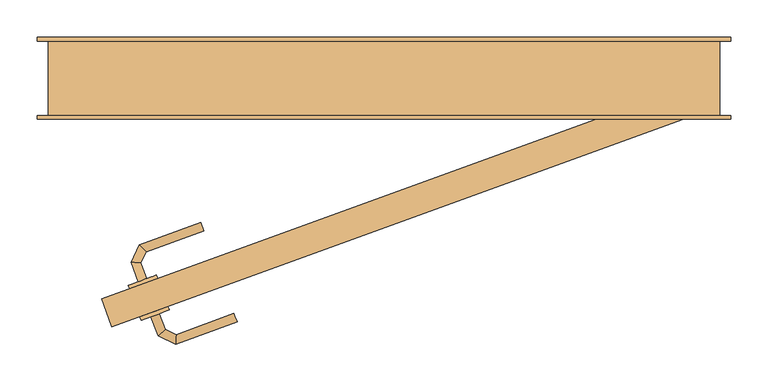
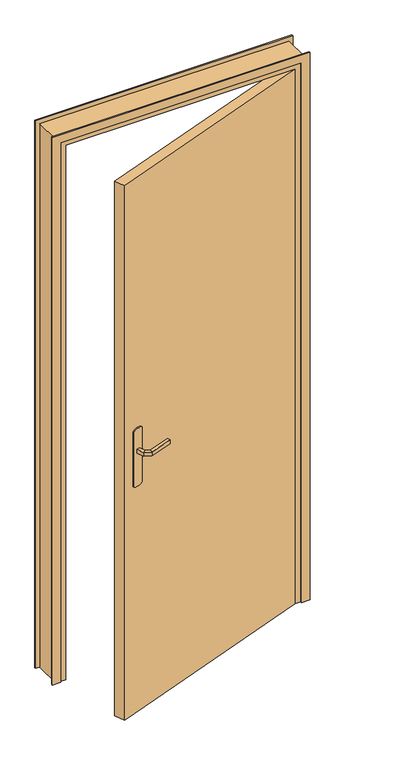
"""IFC4 building model written with IfcOpenShell, lengths in millimetres: door geometry, @_Int. Simple : @_PP (0.83m x 2.04m)."""

from ifc_helpers import new_model, si_unit, point, frame, frame_2d, origin, origin_with_axes, place, context, project, spatial, polyline, circle_curve, ellipse_curve, trimmed, segment, composite_curve, outline, extrude, faceted_brep, source, transform, mapped, element, save
from ifc_brep_helpers import plane_surface, cylinder_surface, advanced_brep


def door_aee14cec(model_context):
    return source(origin(), model_context, "Body", "SolidModel", [
        extrude(outline(composite_curve([segment(trimmed(circle_curve(frame_2d((0.0, -40.0)), 40.0), [point((-34.6410162, -60.0))], [point((-34.6410162, -20.0))], False, "CARTESIAN"), True, "CONTINUOUS"), segment(polyline([(-34.6410162, -20.0), (175.3589838, -20.0)]), True, "CONTINUOUS"), segment(trimmed(circle_curve(frame_2d((140.7179676, -40.0)), 40.0), [point((175.3589838, -20.0))], [point((175.3589838, -60.0))], False, "CARTESIAN"), True, "CONTINUOUS"), segment(polyline([(175.3589838, -60.0), (-34.6410162, -60.0)]), True, "CONTINUOUS")], self_intersect=False)), frame((-304.2655125, -304.3731677, 904.6410162), z_axis=(-0.3420201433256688, 0.9396926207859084, 0.0), x_axis=(0.0, 0.0, 1.0)), (0.0, 0.0, 1.0), 5.0),
        extrude(outline(composite_curve([segment(trimmed(circle_curve(frame_2d((0.0, -40.0)), 40.0), [point((34.6410162, -20.0))], [point((34.6410162, -60.0))], False, "CARTESIAN"), True, "CONTINUOUS"), segment(polyline([(34.6410162, -60.0), (-175.3589838, -60.0)]), True, "CONTINUOUS"), segment(trimmed(circle_curve(frame_2d((-140.7179676, -40.0)), 40.0), [point((-175.3589838, -60.0))], [point((-175.3589838, -20.0))], False, "CARTESIAN"), True, "CONTINUOUS"), segment(polyline([(-175.3589838, -20.0), (34.6410162, -20.0)]), True, "CONTINUOUS")], self_intersect=False)), frame((-319.6564189, -262.0869998, 1045.3589838), z_axis=(-0.3420201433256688, 0.9396926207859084, 0.0), x_axis=(0.0, 0.0, 1.0)), (0.0, 0.0, 1.0), 5.0),
        advanced_brep(
        [(-347.491373, -320.1060943, 1007.0), (-336.2150616, -316.0018526, 1007.0), (-336.2150616, -316.0018526, 993.0), (-347.491373, -320.1060943, 993.0), (-338.0341909, -346.0894887, 1007.0), (-328.457912, -337.3144458, 1007.0), (-328.457912, -337.3144458, 993.0), (-338.0341909, -346.0894887, 993.0), (-314.4798863, -357.0730413, 1007.0), (-313.9133269, -344.0966972, 1007.0), (-313.9133269, -344.0966972, 993.0), (-314.4798863, -357.0730413, 993.0), (-232.1238807, -327.0979066, 1007.0), (-232.1238807, -327.0979066, 993.0), (-236.2281224, -315.8215952, 993.0), (-236.2281224, -315.8215952, 1007.0)],
        [
            (0, 1, circle_curve(frame((-341.8532173, -318.0539735, 986.9542278), z_axis=(-0.3420201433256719, 0.9396926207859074, 0.0), x_axis=(0.9396926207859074, 0.3420201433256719, 0.0)), 20.9244589)),
            (1, 2),
            (2, 3, circle_curve(frame((-341.8532173, -318.0539735, 1013.0457722), z_axis=(-0.3420201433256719, 0.9396926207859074, 0.0), x_axis=(0.9396926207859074, 0.3420201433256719, 0.0)), 20.9244589)),
            (3, 0),
            (0, 4),
            (4, 5, ellipse_curve(frame((-333.2460515, -341.7019672, 986.9542278), z_axis=(-0.6755902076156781, 0.7372773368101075, 0.0), x_axis=(0.7372773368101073, 0.6755902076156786, 0.0)), 22.6484711, 20.9244589)),
            (5, 1),
            (5, 6),
            (6, 2),
            (6, 7, ellipse_curve(frame((-333.2460515, -341.7019672, 1013.0457722), z_axis=(-0.6755902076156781, 0.7372773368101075, 0.0), x_axis=(0.7372773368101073, 0.6755902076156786, 0.0)), 22.6484711, 20.9244589)),
            (7, 3),
            (7, 4),
            (4, 8),
            (8, 9, ellipse_curve(frame((-314.1966066, -350.5848693, 986.9542278), z_axis=(-0.9990482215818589, 0.0436193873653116, 0.0), x_axis=(0.04361938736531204, 0.9990482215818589, 0.0)), 22.6484711, 20.9244589)),
            (9, 5),
            (9, 10),
            (10, 6),
            (10, 11, ellipse_curve(frame((-314.1966066, -350.5848693, 1013.0457722), z_axis=(-0.9990482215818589, 0.0436193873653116, 0.0), x_axis=(0.04361938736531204, 0.9990482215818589, 0.0)), 22.6484711, 20.9244589)),
            (11, 7),
            (11, 8),
            (12, 13),
            (13, 14, circle_curve(frame((-234.1760015, -321.4597509, 1013.0457722), z_axis=(0.9396926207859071, 0.34202014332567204, 0.0), x_axis=(-0.3420201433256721, 0.9396926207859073, 0.0)), 20.9244589)),
            (14, 15),
            (15, 12, circle_curve(frame((-234.1760015, -321.4597509, 986.9542278), z_axis=(0.9396926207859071, 0.34202014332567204, 0.0), x_axis=(-0.3420201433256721, 0.9396926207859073, 0.0)), 20.9244589)),
            (8, 12),
            (15, 9),
            (14, 10),
            (13, 11),
        ],
        [
            plane_surface(frame((-350.5167552, -321.2072434, 1000.0), z_axis=(-0.3420201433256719, 0.9396926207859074, 0.0), x_axis=(0.0, 0.0, -1.0))),
            cylinder_surface(frame((-341.8532173, -318.0539735, 986.9542278), z_axis=(-0.3420201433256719, 0.9396926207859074, 0.0), x_axis=(0.9396926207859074, 0.3420201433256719, 0.0)), 20.9244589),
            plane_surface(frame((-336.2150616, -316.0018526, 1007.0), z_axis=(0.9396926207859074, 0.3420201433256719, 0.0), x_axis=(0.3420201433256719, -0.9396926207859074, 0.0))),
            cylinder_surface(frame((-341.8532173, -318.0539735, 1013.0457722), z_axis=(-0.3420201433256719, 0.9396926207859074, 0.0), x_axis=(0.9396926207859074, 0.3420201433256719, 0.0)), 20.9244589),
            plane_surface(frame((-347.491373, -320.1060943, 993.0), z_axis=(-0.9396926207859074, -0.3420201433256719, 0.0), x_axis=(0.3420201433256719, -0.9396926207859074, 0.0))),
            cylinder_surface(frame((-333.2460515, -341.7019672, 986.9542278), z_axis=(-0.9063077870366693, 0.42261826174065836, 0.0), x_axis=(0.42261826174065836, 0.9063077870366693, 0.0)), 20.9244589),
            plane_surface(frame((-328.457912, -337.3144458, 1007.0), z_axis=(0.42261826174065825, 0.9063077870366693, 0.0), x_axis=(0.9063077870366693, -0.42261826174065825, 0.0))),
            cylinder_surface(frame((-333.2460515, -341.7019672, 1013.0457722), z_axis=(-0.9063077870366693, 0.42261826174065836, 0.0), x_axis=(0.42261826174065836, 0.9063077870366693, 0.0)), 20.9244589),
            plane_surface(frame((-338.0341909, -346.0894887, 993.0), z_axis=(-0.42261826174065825, -0.9063077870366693, 0.0), x_axis=(0.9063077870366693, -0.42261826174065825, 0.0))),
            plane_surface(frame((-234.1760015, -321.4597509, 990.7804555), z_axis=(0.9396926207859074, 0.3420201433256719, 0.0), x_axis=(-0.3420201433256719, 0.9396926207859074, 0.0))),
            cylinder_surface(frame((-314.1966066, -350.5848693, 986.9542278), z_axis=(-0.9396926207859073, -0.3420201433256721, 0.0), x_axis=(-0.3420201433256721, 0.9396926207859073, 0.0)), 20.9244589),
            plane_surface(frame((-313.9133269, -344.0966972, 1007.0), z_axis=(-0.3420201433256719, 0.9396926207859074, 0.0), x_axis=(0.9396926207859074, 0.3420201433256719, 0.0))),
            cylinder_surface(frame((-314.1966066, -350.5848693, 1013.0457722), z_axis=(-0.9396926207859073, -0.3420201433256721, 0.0), x_axis=(-0.3420201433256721, 0.9396926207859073, 0.0)), 20.9244589),
            plane_surface(frame((-314.4798863, -357.0730413, 993.0), z_axis=(0.3420201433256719, -0.9396926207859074, 0.0), x_axis=(0.9396926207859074, 0.3420201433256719, 0.0))),
        ],
        [
            (0, [[1, 2, 3, 4]]),
            (1, [[-1, 5, 6, 7]]),
            (2, [[-2, -7, 8, 9]]),
            (3, [[-3, -9, 10, 11]]),
            (4, [[-4, -11, 12, -5]]),
            (5, [[-6, 13, 14, 15]]),
            (6, [[-8, -15, 16, 17]]),
            (7, [[-10, -17, 18, 19]]),
            (8, [[-12, -19, 20, -13]]),
            (9, [[21, 22, 23, 24]]),
            (10, [[-14, 25, -24, 26]]),
            (11, [[-16, -26, -23, 27]]),
            (12, [[-18, -27, -22, 28]]),
            (13, [[-20, -28, -21, -25]]),
        ],
    ),
        advanced_brep(
        [(-353.3160687, -269.0172216, 993.0), (-353.3160687, -269.0172216, 1007.0), (-364.5923802, -273.1214633, 1007.0), (-364.5923802, -273.1214633, 993.0), (-361.0064616, -247.8880408, 993.0), (-361.0064616, -247.8880408, 1007.0), (-373.9828056, -247.3214814, 1007.0), (-373.9828056, -247.3214814, 993.0), (-354.142025, -233.1672091, 993.0), (-354.142025, -233.1672091, 1007.0), (-362.9170679, -223.5909302, 1007.0), (-362.9170679, -223.5909302, 993.0), (-276.5605303, -204.9298543, 993.0), (-280.664772, -193.6535428, 993.0), (-280.664772, -193.6535428, 1007.0), (-276.5605303, -204.9298543, 1007.0)],
        [
            (0, 1),
            (1, 2, circle_curve(frame((-358.9542245, -271.0693424, 986.9542278), z_axis=(0.3420201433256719, -0.9396926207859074, 0.0), x_axis=(-0.9396926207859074, -0.3420201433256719, 0.0)), 20.9244589)),
            (2, 3),
            (3, 0, circle_curve(frame((-358.9542245, -271.0693424, 1013.0457722), z_axis=(0.3420201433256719, -0.9396926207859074, 0.0), x_axis=(-0.9396926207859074, -0.3420201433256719, 0.0)), 20.9244589)),
            (0, 4),
            (4, 5),
            (5, 1),
            (5, 6, ellipse_curve(frame((-367.4946336, -247.6047611, 986.9542278), z_axis=(-0.043619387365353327, -0.9990482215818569, 0.0), x_axis=(0.9990482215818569, -0.04361938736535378, 0.0)), 22.6484711, 20.9244589)),
            (6, 2),
            (6, 7),
            (7, 3),
            (7, 4, ellipse_curve(frame((-367.4946336, -247.6047611, 1013.0457722), z_axis=(-0.043619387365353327, -0.9990482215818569, 0.0), x_axis=(0.9990482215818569, -0.04361938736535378, 0.0)), 22.6484711, 20.9244589)),
            (4, 8),
            (8, 9),
            (9, 5),
            (9, 10, ellipse_curve(frame((-358.5295465, -228.3790696, 986.9542278), z_axis=(-0.737277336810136, -0.6755902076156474, 0.0), x_axis=(0.6755902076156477, -0.7372773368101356, 0.0)), 22.6484711, 20.9244589)),
            (10, 6),
            (10, 11),
            (11, 7),
            (11, 8, ellipse_curve(frame((-358.5295465, -228.3790696, 1013.0457722), z_axis=(-0.737277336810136, -0.6755902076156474, 0.0), x_axis=(0.6755902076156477, -0.7372773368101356, 0.0)), 22.6484711, 20.9244589)),
            (12, 13, circle_curve(frame((-278.6126511, -199.2916985, 1013.0457722), z_axis=(0.9396926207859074, 0.3420201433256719, 0.0), x_axis=(-0.3420201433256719, 0.9396926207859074, 0.0)), 20.9244589)),
            (13, 14),
            (14, 15, circle_curve(frame((-278.6126511, -199.2916985, 986.9542278), z_axis=(0.9396926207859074, 0.3420201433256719, 0.0), x_axis=(-0.3420201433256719, 0.9396926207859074, 0.0)), 20.9244589)),
            (15, 12),
            (8, 12),
            (15, 9),
            (14, 10),
            (13, 11),
        ],
        [
            plane_surface(frame((-367.6177623, -274.2226123, 1000.0), z_axis=(0.3420201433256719, -0.9396926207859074, 0.0), x_axis=(0.0, 0.0, 1.0))),
            plane_surface(frame((-353.3160687, -269.0172216, 993.0), z_axis=(0.9396926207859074, 0.3420201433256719, 0.0), x_axis=(-0.3420201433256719, 0.9396926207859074, 0.0))),
            cylinder_surface(frame((-358.9542245, -271.0693424, 986.9542278), z_axis=(0.3420201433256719, -0.9396926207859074, 0.0), x_axis=(-0.9396926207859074, -0.3420201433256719, 0.0)), 20.9244589),
            plane_surface(frame((-364.5923802, -273.1214633, 1007.0), z_axis=(-0.9396926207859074, -0.3420201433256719, 0.0), x_axis=(-0.3420201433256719, 0.9396926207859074, 0.0))),
            cylinder_surface(frame((-358.9542245, -271.0693424, 1013.0457722), z_axis=(0.3420201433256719, -0.9396926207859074, 0.0), x_axis=(-0.9396926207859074, -0.3420201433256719, 0.0)), 20.9244589),
            plane_surface(frame((-361.0064616, -247.8880408, 993.0), z_axis=(0.906307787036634, -0.42261826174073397, 0.0), x_axis=(0.42261826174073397, 0.906307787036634, 0.0))),
            cylinder_surface(frame((-367.4946336, -247.6047611, 986.9542278), z_axis=(-0.422618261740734, -0.9063077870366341, 0.0), x_axis=(-0.9063077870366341, 0.422618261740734, 0.0)), 20.9244589),
            plane_surface(frame((-373.9828056, -247.3214814, 1007.0), z_axis=(-0.906307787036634, 0.4226182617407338, 0.0), x_axis=(0.4226182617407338, 0.906307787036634, 0.0))),
            cylinder_surface(frame((-367.4946336, -247.6047611, 1013.0457722), z_axis=(-0.422618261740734, -0.9063077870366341, 0.0), x_axis=(-0.9063077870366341, 0.422618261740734, 0.0)), 20.9244589),
            plane_surface(frame((-278.6126511, -199.2916985, 990.7804555), z_axis=(0.9396926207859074, 0.3420201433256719, 0.0), x_axis=(-0.3420201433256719, 0.9396926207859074, 0.0))),
            plane_surface(frame((-354.142025, -233.1672091, 993.0), z_axis=(0.3420201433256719, -0.9396926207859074, 0.0), x_axis=(0.9396926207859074, 0.3420201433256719, 0.0))),
            cylinder_surface(frame((-358.5295465, -228.3790696, 986.9542278), z_axis=(-0.9396926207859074, -0.3420201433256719, 0.0), x_axis=(-0.3420201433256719, 0.9396926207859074, 0.0)), 20.9244589),
            plane_surface(frame((-362.9170679, -223.5909302, 1007.0), z_axis=(-0.3420201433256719, 0.9396926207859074, 0.0), x_axis=(0.9396926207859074, 0.3420201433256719, 0.0))),
            cylinder_surface(frame((-358.5295465, -228.3790696, 1013.0457722), z_axis=(-0.9396926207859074, -0.3420201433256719, 0.0), x_axis=(-0.3420201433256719, 0.9396926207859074, 0.0)), 20.9244589),
        ],
        [
            (0, [[1, 2, 3, 4]]),
            (1, [[-1, 5, 6, 7]]),
            (2, [[-2, -7, 8, 9]]),
            (3, [[-3, -9, 10, 11]]),
            (4, [[-4, -11, 12, -5]]),
            (5, [[-6, 13, 14, 15]]),
            (6, [[-8, -15, 16, 17]]),
            (7, [[-10, -17, 18, 19]]),
            (8, [[-12, -19, 20, -13]]),
            (9, [[21, 22, 23, 24]]),
            (10, [[-14, 25, -24, 26]]),
            (11, [[-16, -26, -23, 27]]),
            (12, [[-18, -27, -22, 28]]),
            (13, [[-20, -28, -21, -25]]),
        ],
    ),
        extrude(outline(polyline([(-413.625681, -296.2890141), (366.3191943, -12.4122952), (380.0, -50.0), (-399.9448753, -333.876719), (-413.625681, -296.2890141)])), origin_with_axes(), (0.0, 0.0, 1.0), 2040.0),
        faceted_brep([(-485.0, -50.0, 0.0), (-485.0, 50.0, 0.0), (-435.0, 50.0, 0.0), (-435.0, -10.0, 0.0), (-450.0, -10.0, 0.0), (-450.0, -50.0, 0.0), (-485.0, -50.0, 2075.0), (-485.0, 50.0, 2075.0), (415.0, 50.0, 2075.0), (415.0, 50.0, 0.0), (365.0, 50.0, 0.0), (365.0, 50.0, 2025.0), (-435.0, 50.0, 2025.0), (-435.0, -10.0, 2025.0), (365.0, -10.0, 2025.0), (365.0, -10.0, 0.0), (380.0, -10.0, 0.0), (380.0, -10.0, 2040.0), (-450.0, -10.0, 2040.0), (-450.0, -50.0, 2040.0), (380.0, -50.0, 2040.0), (380.0, -50.0, 0.0), (415.0, -50.0, 0.0), (415.0, -50.0, 2075.0)], [[[0, 1, 2, 3, 4, 5]], [[1, 0, 6, 7]], [[2, 1, 7, 8, 9, 10, 11, 12]], [[3, 2, 12, 13]], [[4, 3, 13, 14, 15, 16, 17, 18]], [[5, 4, 18, 19]], [[0, 5, 19, 20, 21, 22, 23, 6]], [[8, 23, 22, 9]], [[22, 21, 16, 15, 10, 9]], [[14, 11, 10, 15]], [[20, 17, 16, 21]], [[7, 6, 23, 8]], [[13, 12, 11, 14]], [[19, 18, 17, 20]]]),
        extrude(outline(polyline([(0.0, -500.0), (0.0, -470.0), (2060.0, -470.0), (2060.0, 400.0), (0.0, 400.0), (0.0, 430.0), (2090.0, 430.0), (2090.0, -500.0), (0.0, -500.0)])), frame((0.0, -55.0, 0.0), z_axis=(0.0, 1.0, 0.0), x_axis=(0.0, 0.0, 1.0)), (0.0, 0.0, 1.0), 5.0),
        extrude(outline(polyline([(0.0, -500.0), (0.0, -470.0), (2060.0, -470.0), (2060.0, 400.0), (0.0, 400.0), (0.0, 430.0), (2090.0, 430.0), (2090.0, -500.0), (0.0, -500.0)])), frame((0.0, 50.0, 0.0), z_axis=(0.0, 1.0, 0.0), x_axis=(0.0, 0.0, 1.0)), (0.0, 0.0, 1.0), 5.0),
    ])


if __name__ == "__main__":
    model = new_model("IFC4")
    model_context = context("Model", 3, world=origin())
    ifc_project = project(units=[si_unit("LENGTHUNIT", "METRE", prefix="MILLI")], contexts=[model_context])
    site = spatial("IfcSite", under=ifc_project)
    building = spatial("IfcBuilding", under=site)
    placement = place(None, origin())
    door_shape = door_aee14cec(model_context)
    element("IfcDoor", 1, ObjectType="@_Int. Simple : @_PP (0.83m x 2.04m)", at=placement, inside=building, context=model_context, shape_type="MappedRepresentation", body=[
        mapped(door_shape, transform((0.0, 0.0, 0.0), x_axis=(1.0, 0.0, 0.0), y_axis=(0.0, 1.0, 0.0), z_axis=(0.0, 0.0, 1.0))),
    ])
    save(model, "model.ifc")
